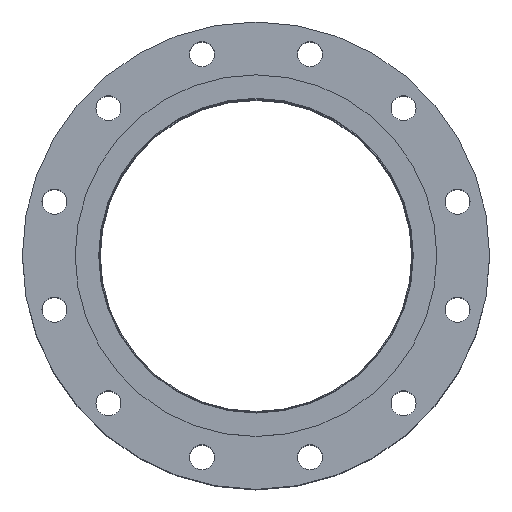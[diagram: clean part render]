
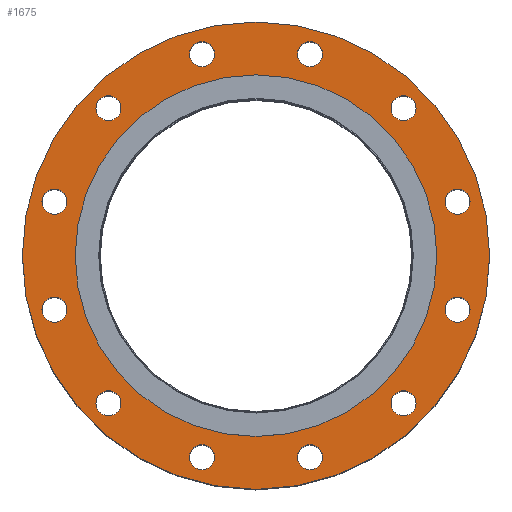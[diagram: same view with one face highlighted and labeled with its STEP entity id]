
A CAD part, top view. The second image highlights one B-rep face of the part: STEP entity #1675.
In plain terms, the highlighted planar face has unit normal (0, 0, 1).
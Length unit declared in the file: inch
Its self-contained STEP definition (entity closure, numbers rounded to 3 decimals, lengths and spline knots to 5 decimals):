
#88=FACE_BOUND('',#431,.T.);
#89=FACE_BOUND('',#432,.T.);
#90=FACE_BOUND('',#433,.T.);
#91=FACE_BOUND('',#434,.T.);
#92=FACE_BOUND('',#435,.T.);
#93=FACE_BOUND('',#436,.T.);
#94=FACE_BOUND('',#437,.T.);
#95=FACE_BOUND('',#438,.T.);
#96=FACE_BOUND('',#439,.T.);
#97=FACE_BOUND('',#440,.T.);
#98=FACE_BOUND('',#441,.T.);
#99=FACE_BOUND('',#442,.T.);
#100=FACE_BOUND('',#443,.T.);
#158=PLANE('',#1892);
#285=FACE_OUTER_BOUND('',#430,.T.);
#430=EDGE_LOOP('',(#1293));
#431=EDGE_LOOP('',(#1294));
#432=EDGE_LOOP('',(#1295));
#433=EDGE_LOOP('',(#1296));
#434=EDGE_LOOP('',(#1297));
#435=EDGE_LOOP('',(#1298));
#436=EDGE_LOOP('',(#1299));
#437=EDGE_LOOP('',(#1300));
#438=EDGE_LOOP('',(#1301));
#439=EDGE_LOOP('',(#1302));
#440=EDGE_LOOP('',(#1303));
#441=EDGE_LOOP('',(#1304));
#442=EDGE_LOOP('',(#1305));
#443=EDGE_LOOP('',(#1306));
#647=CIRCLE('',#1835,0.5625);
#649=CIRCLE('',#1838,0.5625);
#651=CIRCLE('',#1841,0.5625);
#653=CIRCLE('',#1844,0.5625);
#655=CIRCLE('',#1847,0.5625);
#657=CIRCLE('',#1850,0.5625);
#659=CIRCLE('',#1853,0.5625);
#661=CIRCLE('',#1856,0.5625);
#663=CIRCLE('',#1859,0.5625);
#665=CIRCLE('',#1862,0.5625);
#667=CIRCLE('',#1865,0.5625);
#669=CIRCLE('',#1868,0.5625);
#682=CIRCLE('',#1887,8.125);
#684=CIRCLE('',#1891,10.5);
#843=VERTEX_POINT('',#2890);
#845=VERTEX_POINT('',#2896);
#847=VERTEX_POINT('',#2902);
#849=VERTEX_POINT('',#2908);
#851=VERTEX_POINT('',#2914);
#853=VERTEX_POINT('',#2920);
#855=VERTEX_POINT('',#2926);
#857=VERTEX_POINT('',#2932);
#859=VERTEX_POINT('',#2938);
#861=VERTEX_POINT('',#2944);
#863=VERTEX_POINT('',#2950);
#865=VERTEX_POINT('',#2956);
#876=VERTEX_POINT('',#2988);
#878=VERTEX_POINT('',#2995);
#987=EDGE_CURVE('',#843,#843,#647,.T.);
#990=EDGE_CURVE('',#845,#845,#649,.T.);
#993=EDGE_CURVE('',#847,#847,#651,.T.);
#996=EDGE_CURVE('',#849,#849,#653,.T.);
#999=EDGE_CURVE('',#851,#851,#655,.T.);
#1002=EDGE_CURVE('',#853,#853,#657,.T.);
#1005=EDGE_CURVE('',#855,#855,#659,.T.);
#1008=EDGE_CURVE('',#857,#857,#661,.T.);
#1011=EDGE_CURVE('',#859,#859,#663,.T.);
#1014=EDGE_CURVE('',#861,#861,#665,.T.);
#1017=EDGE_CURVE('',#863,#863,#667,.T.);
#1020=EDGE_CURVE('',#865,#865,#669,.T.);
#1036=EDGE_CURVE('',#876,#876,#682,.T.);
#1038=EDGE_CURVE('',#878,#878,#684,.T.);
#1293=ORIENTED_EDGE('',*,*,#1038,.T.);
#1294=ORIENTED_EDGE('',*,*,#987,.T.);
#1295=ORIENTED_EDGE('',*,*,#990,.T.);
#1296=ORIENTED_EDGE('',*,*,#993,.T.);
#1297=ORIENTED_EDGE('',*,*,#996,.T.);
#1298=ORIENTED_EDGE('',*,*,#999,.T.);
#1299=ORIENTED_EDGE('',*,*,#1002,.T.);
#1300=ORIENTED_EDGE('',*,*,#1005,.T.);
#1301=ORIENTED_EDGE('',*,*,#1008,.T.);
#1302=ORIENTED_EDGE('',*,*,#1011,.T.);
#1303=ORIENTED_EDGE('',*,*,#1014,.T.);
#1304=ORIENTED_EDGE('',*,*,#1017,.T.);
#1305=ORIENTED_EDGE('',*,*,#1020,.T.);
#1306=ORIENTED_EDGE('',*,*,#1036,.T.);
#1675=ADVANCED_FACE('',(#285,#88,#89,#90,#91,#92,#93,#94,#95,#96,#97,#98,
#99,#100),#158,.T.);
#1835=AXIS2_PLACEMENT_3D('',#2891,#2183,#2184);
#1838=AXIS2_PLACEMENT_3D('',#2897,#2190,#2191);
#1841=AXIS2_PLACEMENT_3D('',#2903,#2197,#2198);
#1844=AXIS2_PLACEMENT_3D('',#2909,#2204,#2205);
#1847=AXIS2_PLACEMENT_3D('',#2915,#2211,#2212);
#1850=AXIS2_PLACEMENT_3D('',#2921,#2218,#2219);
#1853=AXIS2_PLACEMENT_3D('',#2927,#2225,#2226);
#1856=AXIS2_PLACEMENT_3D('',#2933,#2232,#2233);
#1859=AXIS2_PLACEMENT_3D('',#2939,#2239,#2240);
#1862=AXIS2_PLACEMENT_3D('',#2945,#2246,#2247);
#1865=AXIS2_PLACEMENT_3D('',#2951,#2253,#2254);
#1868=AXIS2_PLACEMENT_3D('',#2957,#2260,#2261);
#1887=AXIS2_PLACEMENT_3D('',#2990,#2301,#2302);
#1891=AXIS2_PLACEMENT_3D('',#2996,#2309,#2310);
#1892=AXIS2_PLACEMENT_3D('',#2998,#2312,#2313);
#2183=DIRECTION('center_axis',(0.,0.,-1.));
#2184=DIRECTION('ref_axis',(0.866,-0.5,0.));
#2190=DIRECTION('center_axis',(0.,0.,-1.));
#2191=DIRECTION('ref_axis',(0.5,-0.866,0.));
#2197=DIRECTION('center_axis',(0.,0.,-1.));
#2198=DIRECTION('ref_axis',(0.,-1.,0.));
#2204=DIRECTION('center_axis',(0.,0.,-1.));
#2205=DIRECTION('ref_axis',(-0.5,-0.866,0.));
#2211=DIRECTION('center_axis',(0.,0.,-1.));
#2212=DIRECTION('ref_axis',(-0.866,-0.5,0.));
#2218=DIRECTION('center_axis',(0.,0.,-1.));
#2219=DIRECTION('ref_axis',(-1.,0.,0.));
#2225=DIRECTION('center_axis',(0.,0.,-1.));
#2226=DIRECTION('ref_axis',(-0.866,0.5,0.));
#2232=DIRECTION('center_axis',(0.,0.,-1.));
#2233=DIRECTION('ref_axis',(-0.5,0.866,0.));
#2239=DIRECTION('center_axis',(0.,0.,-1.));
#2240=DIRECTION('ref_axis',(0.,1.,0.));
#2246=DIRECTION('center_axis',(0.,0.,-1.));
#2247=DIRECTION('ref_axis',(0.5,0.866,0.));
#2253=DIRECTION('center_axis',(0.,0.,-1.));
#2254=DIRECTION('ref_axis',(0.866,0.5,0.));
#2260=DIRECTION('center_axis',(0.,0.,-1.));
#2261=DIRECTION('ref_axis',(1.,0.,0.));
#2301=DIRECTION('center_axis',(0.,0.,-1.));
#2302=DIRECTION('ref_axis',(0.,1.,0.));
#2309=DIRECTION('center_axis',(0.,0.,1.));
#2310=DIRECTION('ref_axis',(1.,0.,0.));
#2312=DIRECTION('center_axis',(0.,0.,1.));
#2313=DIRECTION('ref_axis',(1.,0.,0.));
#2890=CARTESIAN_POINT('',(1.93929,9.3368,0.655));
#2891=CARTESIAN_POINT('Origin',(2.42643,9.05555,0.655));
#2896=CARTESIAN_POINT('',(6.34788,7.11627,0.655));
#2897=CARTESIAN_POINT('Origin',(6.62913,6.62913,0.655));
#2902=CARTESIAN_POINT('',(9.05555,2.98893,0.655));
#2903=CARTESIAN_POINT('Origin',(9.05555,2.42643,0.655));
#2908=CARTESIAN_POINT('',(9.3368,-1.93929,0.655));
#2909=CARTESIAN_POINT('Origin',(9.05555,-2.42643,0.655));
#2914=CARTESIAN_POINT('',(7.11627,-6.34788,0.655));
#2915=CARTESIAN_POINT('Origin',(6.62913,-6.62913,0.655));
#2920=CARTESIAN_POINT('',(2.98893,-9.05555,0.655));
#2921=CARTESIAN_POINT('Origin',(2.42643,-9.05555,0.655));
#2926=CARTESIAN_POINT('',(-1.93929,-9.3368,0.655));
#2927=CARTESIAN_POINT('Origin',(-2.42643,-9.05555,0.655));
#2932=CARTESIAN_POINT('',(-6.34788,-7.11627,0.655));
#2933=CARTESIAN_POINT('Origin',(-6.62913,-6.62913,0.655));
#2938=CARTESIAN_POINT('',(-9.05555,-2.98893,0.655));
#2939=CARTESIAN_POINT('Origin',(-9.05555,-2.42643,0.655));
#2944=CARTESIAN_POINT('',(-9.3368,1.93929,0.655));
#2945=CARTESIAN_POINT('Origin',(-9.05555,2.42643,0.655));
#2950=CARTESIAN_POINT('',(-7.11627,6.34788,0.655));
#2951=CARTESIAN_POINT('Origin',(-6.62913,6.62913,0.655));
#2956=CARTESIAN_POINT('',(-2.98893,9.05555,0.655));
#2957=CARTESIAN_POINT('Origin',(-2.42643,9.05555,0.655));
#2988=CARTESIAN_POINT('',(0.,-8.125,0.655));
#2990=CARTESIAN_POINT('Origin',(0.,0.,0.655));
#2995=CARTESIAN_POINT('',(0.,-10.5,0.655));
#2996=CARTESIAN_POINT('Origin',(0.,0.,0.655));
#2998=CARTESIAN_POINT('Origin',(0.,7.07,0.655));
